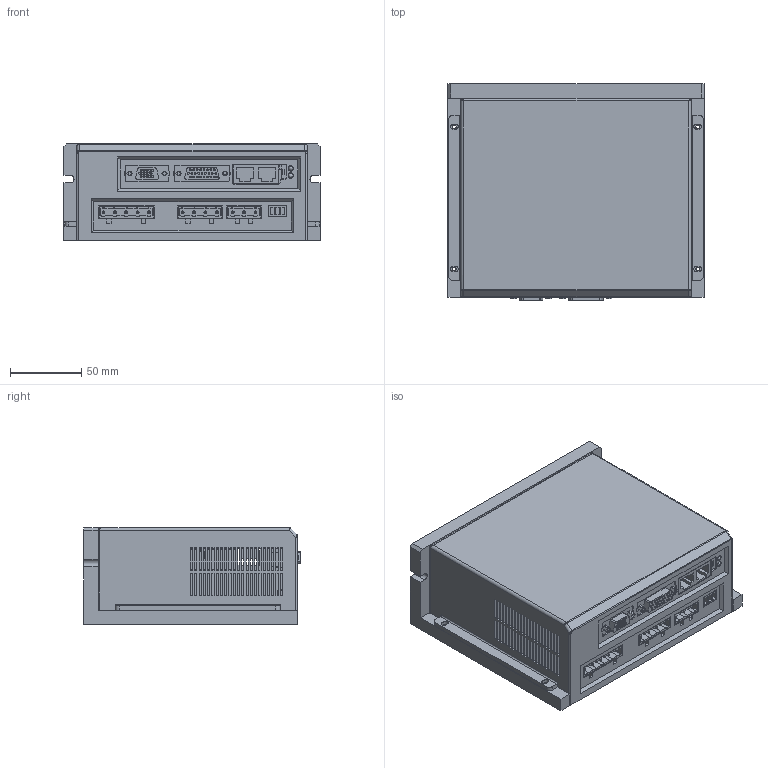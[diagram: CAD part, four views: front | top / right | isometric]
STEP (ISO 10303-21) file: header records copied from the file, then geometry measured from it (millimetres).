
FILE_DESCRIPTION (( 'STEP AP203' ), '1' );
FILE_NAME ('蚾饜极.STEP', '2024-12-23T02:34:49', ( '' ), ( '' ), 'SwSTEP 2.0', 'SolidWorks 2018', '' );
FILE_SCHEMA (( 'CONFIG_CONTROL_DESIGN' ));
Length unit declared in the file: millimetre
Products named in the file (8): 硌尨腑湮輸翋璃; 詢揤3pins傷赽; IXH1020外壳 V1 开孔整体上移4mm，加上抱闸端口; 詢揤4pins傷赽; IXH1020 菁釱; 蚾饜极; P2秶雄惕掅傷赽; 詢揤5pins傷赽
Assembly tree (7 placements, depth 2):
  蚾饜极
    IXH1020 菁釱
    IXH1020外壳 V1 开孔整体上移4mm，加上抱闸端口
    詢揤3pins傷赽
    詢揤4pins傷赽
    詢揤5pins傷赽
    硌尨腑湮輸翋璃
    P2秶雄惕掅傷赽
Bounding box: 180 x 152 x 68 mm (x, y, z)
Volume: 546002.7 mm3; surface area: 234633.6 mm2
Topology: 54 solids, 54 shells, 2052 faces, 5184 edges, 3427 vertices
Faces by surface type: plane 1594, cylinder 430, cone 18, bspline 10
Entity records: 62418 total; most frequent: CARTESIAN_POINT 11251, ORIENTED_EDGE 10312, DIRECTION 10084, EDGE_CURVE 5156, LINE 4292, VECTOR 4292, VERTEX_POINT 3427, AXIS2_PLACEMENT_3D 2896
